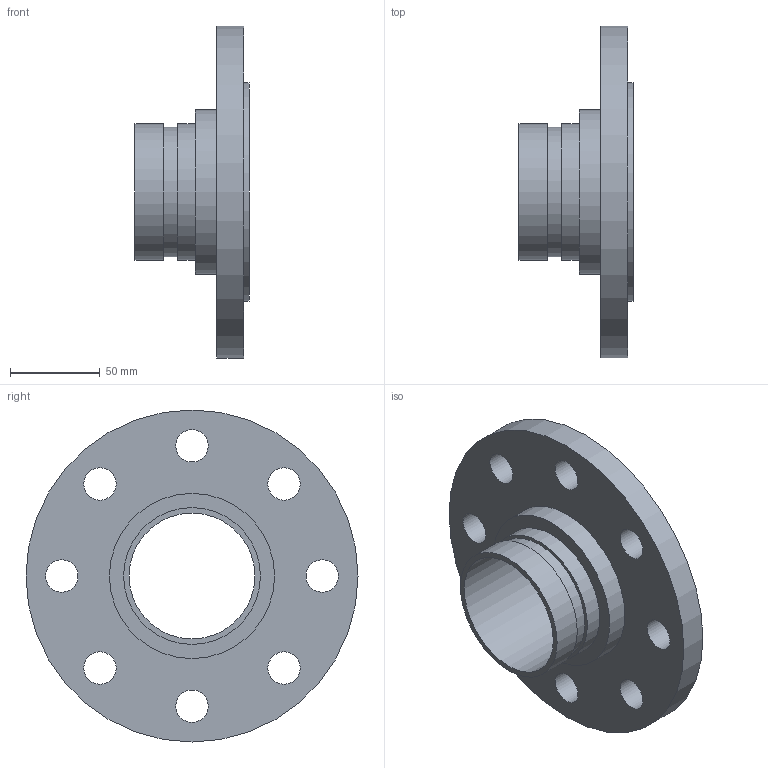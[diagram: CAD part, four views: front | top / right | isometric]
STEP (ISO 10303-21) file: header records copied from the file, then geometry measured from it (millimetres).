
FILE_DESCRIPTION(/* description */ ('VIC FLANGE ADAPTER STYLE 441N','CAx-IF Rec.Pracs.---Representation and Presentation of Product Manufacturing Information (PMI)---4.0---2014-10-13'),/* implementation_level */ '2;1');
FILE_NAME(/* name */ 'C:\Users\kkamble\AppData\Roaming\Autodesk\ApplicationPlugins\Back Up\Victaulic_SS-OGS_Flanged Adapter Nipple_PN10_Style 441N (OGSxFLG)\Victaulic_SS-OGS_Flanged Adapter Nipple_PN10_Style 441N (OGSxFLG)_02.5 (76.1) (65).stp',/* time_stamp */ '2020-08-27T09:31:41+05:00',/* author */ ('jbrannon'),/* organization */ ('Victaulic'),/* preprocessor_version */ 'ST-DEVELOPER v17.2',/* originating_system */ 'Autodesk Inventor 2019',/* authorisation */ '');
FILE_SCHEMA (('AP242_MANAGED_MODEL_BASED_3D_ENGINEERING_MIM_LF { 1 0 10303 442 1 1 4 }'));
Length unit declared in the file: inch
Products named in the file (1): 441N-02.5 (76.1)
Bounding box: 63.5 x 184.91 x 184.91 mm (x, y, z)
Volume: 390821.7 mm3; surface area: 84847.7 mm2
Topology: 1 solids, 1 shells, 22 faces, 59 edges, 44 vertices
Faces by surface type: cylinder 15, plane 7
Full cylindrical faces by diameter (mm): 18.034 x8, 70.104 x1, 72.263 x1, 76.2 x2, 91.948 x1, 121.92 x1, 184.912 x1
Entity records: 929 total; most frequent: DIRECTION 175, CARTESIAN_POINT 143, ORIENTED_EDGE 118, AXIS2_PLACEMENT_3D 80, EDGE_CURVE 59, EDGE_LOOP 45, CIRCLE 44, VERTEX_POINT 44
